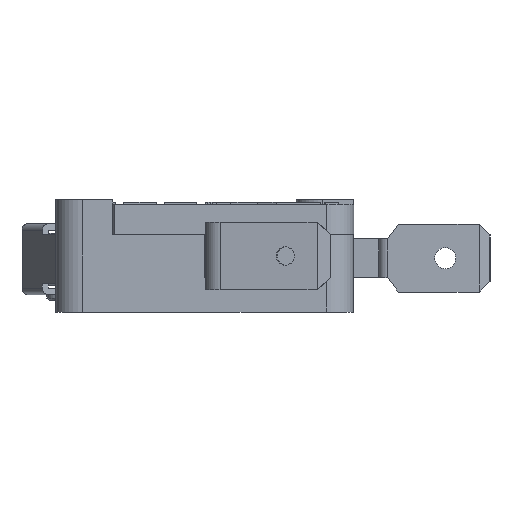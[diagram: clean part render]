
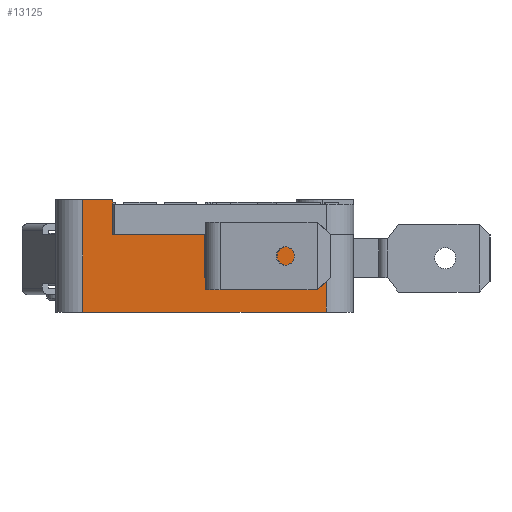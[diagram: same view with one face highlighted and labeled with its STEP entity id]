
A CAD part, front view. The second image highlights one B-rep face of the part: STEP entity #13125.
In plain terms, the highlighted planar face has unit normal (0, -1, 0).
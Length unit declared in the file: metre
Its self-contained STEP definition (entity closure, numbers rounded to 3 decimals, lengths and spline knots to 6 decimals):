
#12711=CARTESIAN_POINT('',(-0.024738,-0.019623,0.033313));
#12712=VERTEX_POINT('',#12711);
#12715=CARTESIAN_POINT('',(-0.021938,-0.019623,0.033313));
#12716=DIRECTION('',(1.,0.,0.));
#12717=VECTOR('',#12716,1.);
#12718=LINE('',#12715,#12717);
#12719=CARTESIAN_POINT('',(-0.021938,-0.019623,0.033313));
#12720=VERTEX_POINT('',#12719);
#12721=EDGE_CURVE('',#12712,#12720,#12718,.T.);
#12783=CARTESIAN_POINT('',(-0.024738,-0.019623,0.022913));
#12784=VERTEX_POINT('',#12783);
#12787=CARTESIAN_POINT('',(-0.024738,-0.019623,0.033313));
#12788=DIRECTION('',(0.,0.,-1.));
#12789=VECTOR('',#12788,1.);
#12790=LINE('',#12787,#12789);
#12791=EDGE_CURVE('',#12712,#12784,#12790,.T.);
#12963=CARTESIAN_POINT('',(-0.021938,-0.019623,0.033313));
#12964=DIRECTION('',(0.,0.,-1.));
#12965=VECTOR('',#12964,1.);
#12966=LINE('',#12963,#12965);
#12967=CARTESIAN_POINT('',(-0.021938,-0.019623,0.030113));
#12968=VERTEX_POINT('',#12967);
#12969=EDGE_CURVE('',#12720,#12968,#12966,.T.);
#12997=CARTESIAN_POINT('',(-0.013438,-0.019623,0.030113));
#12998=VERTEX_POINT('',#12997);
#13051=CARTESIAN_POINT('',(-0.013438,-0.019623,0.030113));
#13052=DIRECTION('',(-1.,0.,0.));
#13053=VECTOR('',#13052,1.);
#13054=LINE('',#13051,#13053);
#13055=EDGE_CURVE('',#12998,#12968,#13054,.T.);
#13068=CARTESIAN_POINT('',(0.000362,-0.019623,0.030113));
#13069=DIRECTION('',(0.,-1.,0.));
#13070=DIRECTION('',(1.,0.,0.));
#13071=AXIS2_PLACEMENT_3D('',#13068,#13069,#13070);
#13072=PLANE('',#13071);
#13073=CARTESIAN_POINT('',(0.000362,-0.019623,0.022913));
#13074=DIRECTION('',(-1.,0.,0.));
#13075=VECTOR('',#13074,1.);
#13076=LINE('',#13073,#13075);
#13077=CARTESIAN_POINT('',(-0.002138,-0.019623,0.022913));
#13078=VERTEX_POINT('',#13077);
#13079=EDGE_CURVE('',#13078,#12784,#13076,.T.);
#13080=ORIENTED_EDGE('',*,*,#13079,.F.);
#13081=CARTESIAN_POINT('',(-0.002138,-0.019623,0.030113));
#13082=DIRECTION('',(0.,0.,-1.));
#13083=VECTOR('',#13082,1.);
#13084=LINE('',#13081,#13083);
#13085=CARTESIAN_POINT('',(-0.002138,-0.019623,0.030113));
#13086=VERTEX_POINT('',#13085);
#13087=EDGE_CURVE('',#13086,#13078,#13084,.T.);
#13088=ORIENTED_EDGE('',*,*,#13087,.F.);
#13089=CARTESIAN_POINT('',(0.000362,-0.019623,0.030113));
#13090=DIRECTION('',(-1.,0.,0.));
#13091=VECTOR('',#13090,1.);
#13092=LINE('',#13089,#13091);
#13093=CARTESIAN_POINT('',(-0.012238,-0.019623,0.030113));
#13094=VERTEX_POINT('',#13093);
#13095=EDGE_CURVE('',#13086,#13094,#13092,.T.);
#13096=ORIENTED_EDGE('',*,*,#13095,.T.);
#13097=CARTESIAN_POINT('',(-0.012238,-0.019623,0.030113));
#13098=DIRECTION('',(0.,0.,-1.));
#13099=VECTOR('',#13098,1.);
#13100=LINE('',#13097,#13099);
#13101=CARTESIAN_POINT('',(-0.012238,-0.019623,0.026113));
#13102=VERTEX_POINT('',#13101);
#13103=EDGE_CURVE('',#13094,#13102,#13100,.T.);
#13104=ORIENTED_EDGE('',*,*,#13103,.T.);
#13105=CARTESIAN_POINT('',(0.000362,-0.019623,0.026113));
#13106=DIRECTION('',(-1.,0.,0.));
#13107=VECTOR('',#13106,1.);
#13108=LINE('',#13105,#13107);
#13109=CARTESIAN_POINT('',(-0.013438,-0.019623,0.026113));
#13110=VERTEX_POINT('',#13109);
#13111=EDGE_CURVE('',#13102,#13110,#13108,.T.);
#13112=ORIENTED_EDGE('',*,*,#13111,.T.);
#13113=CARTESIAN_POINT('',(-0.013438,-0.019623,0.030113));
#13114=DIRECTION('',(0.,0.,-1.));
#13115=VECTOR('',#13114,1.);
#13116=LINE('',#13113,#13115);
#13117=EDGE_CURVE('',#12998,#13110,#13116,.T.);
#13118=ORIENTED_EDGE('',*,*,#13117,.F.);
#13119=ORIENTED_EDGE('',*,*,#13055,.T.);
#13120=ORIENTED_EDGE('',*,*,#12969,.F.);
#13121=ORIENTED_EDGE('',*,*,#12721,.F.);
#13122=ORIENTED_EDGE('',*,*,#12791,.T.);
#13123=EDGE_LOOP('',(#13080,#13088,#13096,#13104,#13112,#13118,#13119,#13120,#13121,#13122));
#13124=FACE_BOUND('',#13123,.T.);
#13125=ADVANCED_FACE('',(#13124),#13072,.T.);
